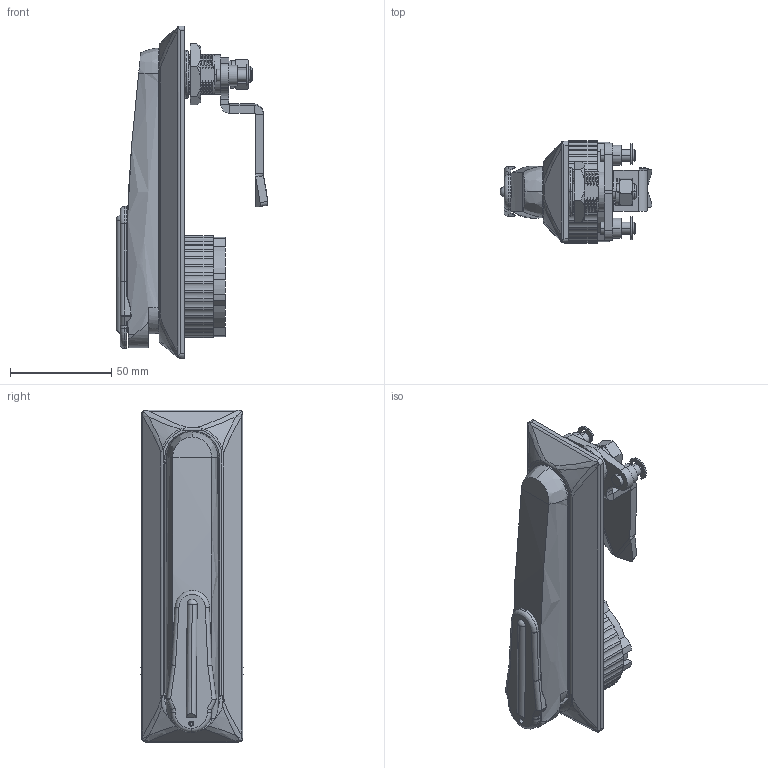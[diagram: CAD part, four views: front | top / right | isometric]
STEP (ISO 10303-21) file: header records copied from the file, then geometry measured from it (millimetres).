
FILE_DESCRIPTION (( 'STEP AP214' ), '1' );
FILE_NAME ('1B.RS210.00.00.00,.STEP', '2011-10-03T10:26:48', ( 'Techniczny' ), ( 'RST ROZTOCZE' ), 'SwSTEP 2.0', 'SolidWorks 2010', '' );
FILE_SCHEMA (( 'AUTOMOTIVE_DESIGN' ));
Length unit declared in the file: millimetre
Products named in the file (20): 1C.MZ2.05.05.00; DIN 6799 - 5; Podk³adka sprê¿ynowa M8; Nakrêtka M8_M8-1.25; 1B.RS210.00.00.00,; 1B.RS100.01.03.00_Default; 1B.KLP-RS.02.00.00; 1B RS 200.02.01.00; Zapinka RESS; O-RING 22x2; 1B.RS100.01.04.00; oring FI 12x2; RS200-nakrêtka-ma³a; O-RING 45 x 2; 1C.NZN.01.00.00; 1B.RS110.01.00.00; 1B.RS210.01.01.00; 1C.J-37535 L=65 h=17_rozwiniêcie; 1C.J-37535 L=65 h=17; Podk³adka falista M22
Assembly tree (21 placements, depth 3):
  1B.RS210.00.00.00,
    O-RING 22x2
    1B.RS210.01.01.00
    Nakrêtka M8_M8-1.25
    1B.RS110.01.00.00
    1C.NZN.01.00.00
    O-RING 45 x 2
    1B.RS100.01.04.00
    1B RS 200.02.01.00
    DIN 6799 - 5  x2
    1C.J-37535 L=65 h=17
      1C.J-37535 L=65 h=17_rozwiniêcie
      1C.MZ2.05.05.00  x2
    oring FI 12x2
    Podk³adka sprê¿ynowa M8
    RS200-nakrêtka-ma³a
    1B.RS100.01.03.00_Default
    Zapinka RESS
    1B.KLP-RS.02.00.00
    Podk³adka falista M22
Bounding box: 75.05 x 50.41 x 164 mm (x, y, z)
Volume: 132174.5 mm3; surface area: 73077.5 mm2
Topology: 20 solids, 20 shells, 857 faces, 2258 edges, 1433 vertices
Faces by surface type: cylinder 365, plane 241, bspline 170, cone 39, torus 32, sphere 10
Entity records: 39341 total; most frequent: CARTESIAN_POINT 19945, ORIENTED_EDGE 4242, DIRECTION 3476, EDGE_CURVE 2121, VERTEX_POINT 1360, AXIS2_PLACEMENT_3D 1337, EDGE_LOOP 863, ADVANCED_FACE 812
